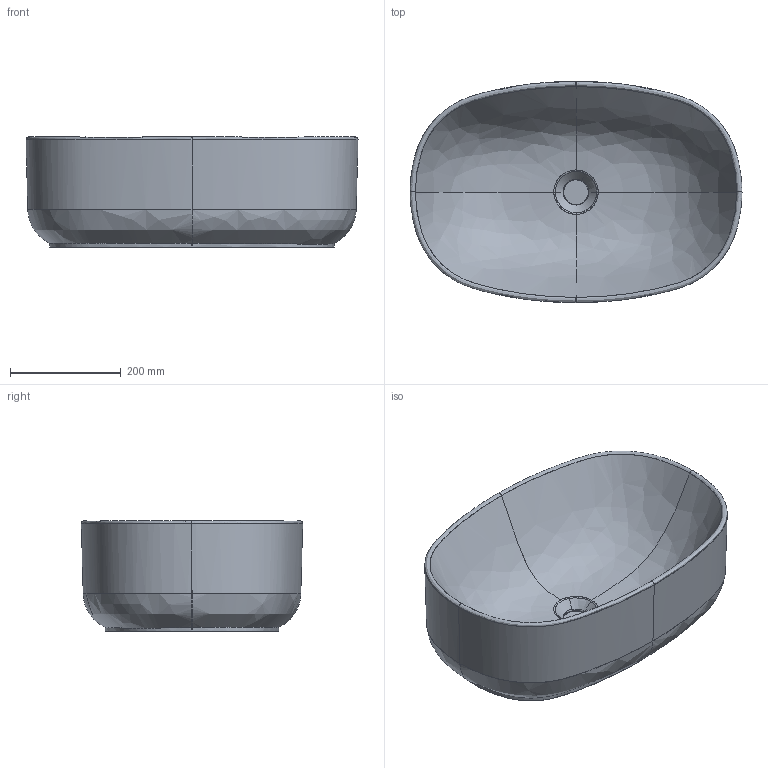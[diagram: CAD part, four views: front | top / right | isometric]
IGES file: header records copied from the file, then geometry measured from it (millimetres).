
Start section: START RECORD GO HERE.
Global section: file name: C:\Users\DE NITTO FULVIO\Desktop\Nic2013-14\Collezione Semplice\lavaboSempliceOvale60\lavabo ovale60x40x19.igs; native system: Rhinoceros ( Jan 18 2007 ); preprocessor: Trout Lake IGES 012 Jan 18 2007; date: 140702.131921; units: millimetre
Bounding box: 599.69 x 399.69 x 199.44 mm (x, y, z)
Surface area: 784876.3 mm2 (no closed solid volume)
Topology: 0 solids, 0 shells, 44 faces, 1194 edges, 1194 vertices
Faces by surface type: bspline 44
